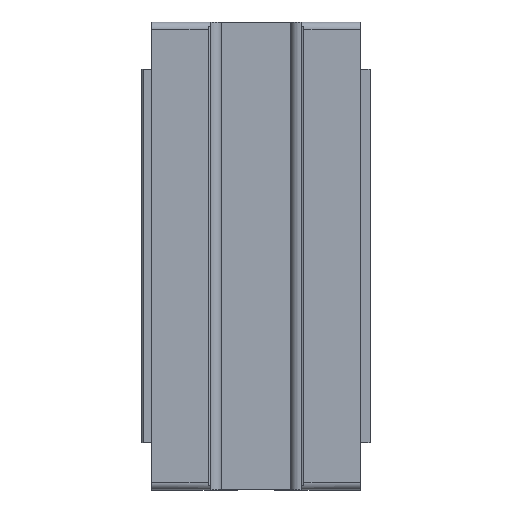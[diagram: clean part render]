
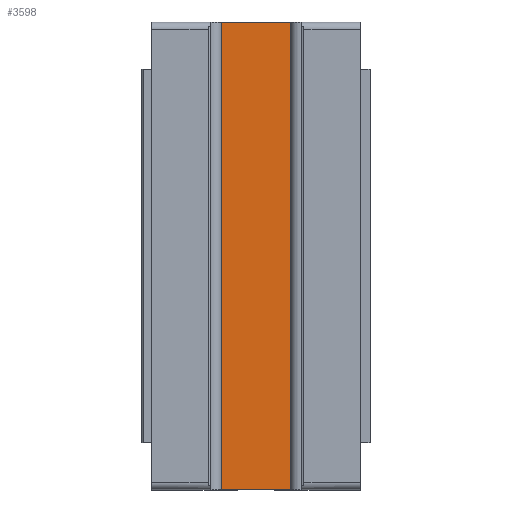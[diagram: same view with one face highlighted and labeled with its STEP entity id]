
A CAD part, front view. The second image highlights one B-rep face of the part: STEP entity #3598.
In plain terms, the highlighted planar face has unit normal (0, -1, 0).
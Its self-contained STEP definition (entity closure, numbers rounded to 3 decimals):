
#350 = DIRECTION ( 'NONE',  ( -1., 0., 0. ) ) ;
#351 = VECTOR ( 'NONE', #350, 1000. ) ;
#352 = CARTESIAN_POINT ( 'NONE',  ( 7.256, 7.799, 81.05 ) ) ;
#353 = LINE ( 'NONE', #352, #351 ) ;
#367 = CARTESIAN_POINT ( 'NONE',  ( 7.256, 7.799, 81.05 ) ) ;
#576 = DIRECTION ( 'NONE',  ( 0., 0., 1. ) ) ;
#577 = VECTOR ( 'NONE', #576, 1000. ) ;
#583 = PLANE ( 'NONE',  #595 ) ;
#584 = DIRECTION ( 'NONE',  ( 0., 0., 1. ) ) ;
#585 = VECTOR ( 'NONE', #584, 1000. ) ;
#586 = CARTESIAN_POINT ( 'NONE',  ( 7.256, 7.799, -9.1 ) ) ;
#587 = LINE ( 'NONE', #586, #585 ) ;
#588 = LINE ( 'NONE', #593, #577 ) ;
#590 = DIRECTION ( 'NONE',  ( -1., 0., 0. ) ) ;
#591 = DIRECTION ( 'NONE',  ( 0., 1., 0. ) ) ;
#592 = CARTESIAN_POINT ( 'NONE',  ( 7.256, 7.799, -9.1 ) ) ;
#593 = CARTESIAN_POINT ( 'NONE',  ( -7.254, 7.799, -9.1 ) ) ;
#594 = FACE_OUTER_BOUND ( 'NONE', #3614, .T. ) ;
#595 = AXIS2_PLACEMENT_3D ( 'NONE', #592, #591, #590 ) ;
#1563 = CARTESIAN_POINT ( 'NONE',  ( -7.254, 7.799, 81.05 ) ) ;
#3598 = ADVANCED_FACE ( 'NONE', ( #594 ), #583, .F. ) ;
#3599 = EDGE_CURVE ( 'NONE', #10550, #10809, #588, .T. ) ;
#3611 = EDGE_CURVE ( 'NONE', #10706, #11062, #587, .T. ) ;
#3614 = EDGE_LOOP ( 'NONE', ( #3699, #3647, #3651, #3654 ) ) ;
#3647 = ORIENTED_EDGE ( 'NONE', *, *, #11063, .T. ) ;
#3651 = ORIENTED_EDGE ( 'NONE', *, *, #3599, .F. ) ;
#3654 = ORIENTED_EDGE ( 'NONE', *, *, #10687, .F. ) ;
#3699 = ORIENTED_EDGE ( 'NONE', *, *, #3611, .T. ) ;
#8023 = CARTESIAN_POINT ( 'NONE',  ( -20.1, 7.799, -9.05 ) ) ;
#8025 = CARTESIAN_POINT ( 'NONE',  ( 7.256, 7.799, -9.05 ) ) ;
#8029 = DIRECTION ( 'NONE',  ( -1., 0., 0. ) ) ;
#8030 = VECTOR ( 'NONE', #8029, 1000. ) ;
#8040 = LINE ( 'NONE', #8023, #8030 ) ;
#8115 = CARTESIAN_POINT ( 'NONE',  ( -7.254, 7.799, -9.05 ) ) ;
#10550 = VERTEX_POINT ( 'NONE', #8115 ) ;
#10687 = EDGE_CURVE ( 'NONE', #10706, #10550, #8040, .T. ) ;
#10706 = VERTEX_POINT ( 'NONE', #8025 ) ;
#10809 = VERTEX_POINT ( 'NONE', #1563 ) ;
#11062 = VERTEX_POINT ( 'NONE', #367 ) ;
#11063 = EDGE_CURVE ( 'NONE', #11062, #10809, #353, .T. ) ;
